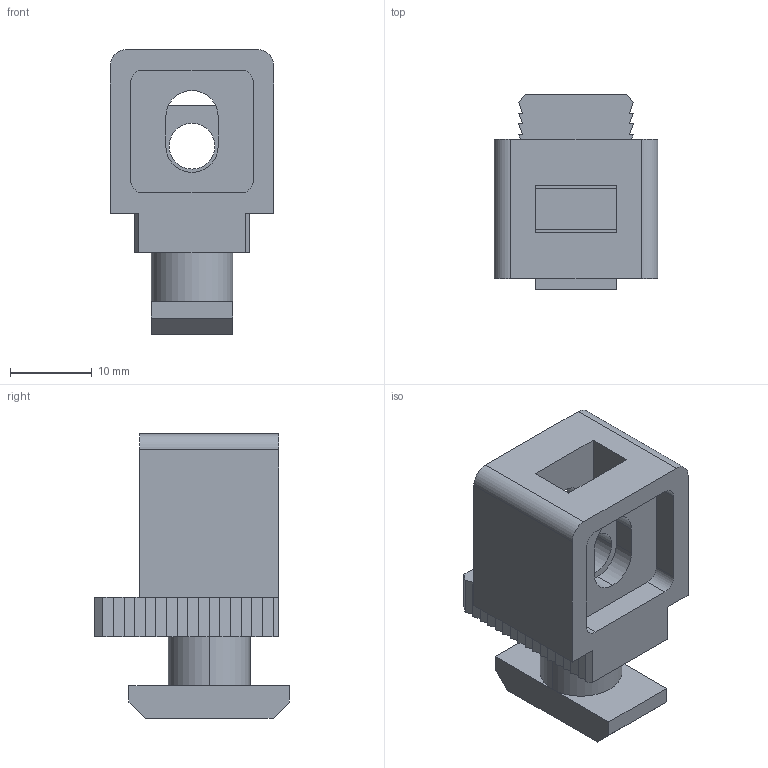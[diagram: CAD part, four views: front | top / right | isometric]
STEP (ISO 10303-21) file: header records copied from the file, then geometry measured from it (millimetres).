
FILE_DESCRIPTION (( 'STEP AP203' ), '1' );
FILE_NAME ('411091_Variofix-Block Nut 10 M6, schwarz.step', '2022-06-07T13:20:06', ( '' ), ( '' ), 'SwSTEP 2.0', 'SolidWorks 2021', '' );
FILE_SCHEMA (( 'CONFIG_CONTROL_DESIGN' ));
Length unit declared in the file: millimetre
Products named in the file (3): 411091_Variofix-Block Nut 10 M6, schwarz; 411091 Variofix-Block Nut 10, schwarz; 411091 Vierkantmutter M6
Assembly tree (2 placements, depth 2):
  411091_Variofix-Block Nut 10 M6, schwarz
    411091 Variofix-Block Nut 10, schwarz
    411091 Vierkantmutter M6
Bounding box: 20 x 23.8 x 34.8 mm (x, y, z)
Volume: 7179 mm3; surface area: 4595.1 mm2
Topology: 2 solids, 2 shells, 132 faces, 366 edges, 242 vertices
Faces by surface type: plane 112, cylinder 20
Entity records: 4477 total; most frequent: CARTESIAN_POINT 747, ORIENTED_EDGE 732, DIRECTION 678, EDGE_CURVE 366, VECTOR 324, LINE 324, VERTEX_POINT 242, AXIS2_PLACEMENT_3D 177
